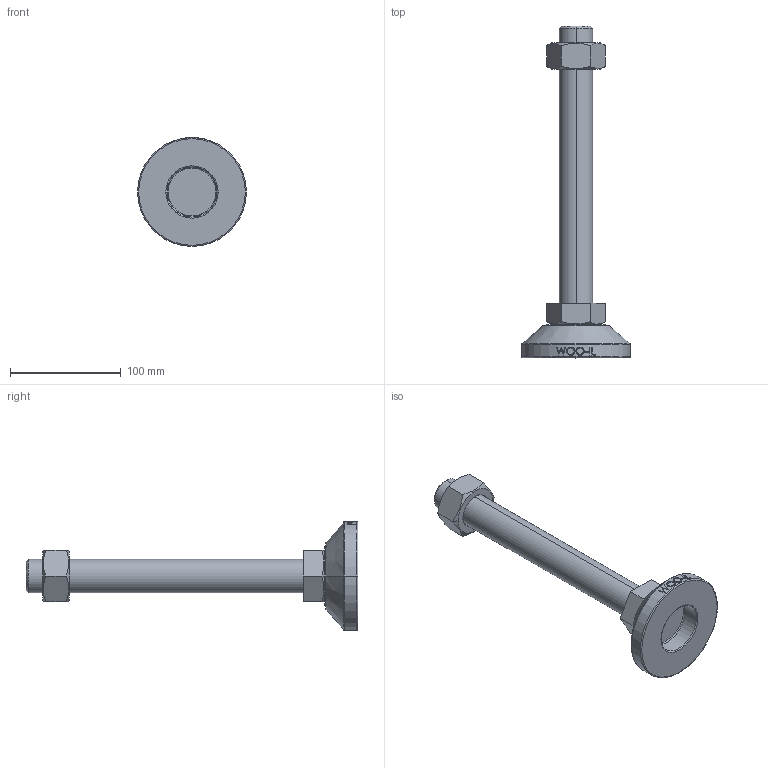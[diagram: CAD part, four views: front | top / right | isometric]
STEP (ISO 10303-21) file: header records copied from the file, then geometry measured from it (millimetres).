
FILE_DESCRIPTION (( 'STEP AP214' ), '1' );
FILE_NAME ('MF98-M30-250.step', '2021-02-03T08:24:11', ( '' ), ( '' ), 'SwSTEP 2.0', 'SolidWorks 2019', '' );
FILE_SCHEMA (( 'AUTOMOTIVE_DESIGN' ));
Length unit declared in the file: millimetre
Products named in the file (2): MF98-M30-250
Bounding box: 98 x 299 x 98 mm (x, y, z)
Volume: 390015.5 mm3; surface area: 60647.1 mm2
Topology: 3 solids, 3 shells, 106 faces, 243 edges, 154 vertices
Faces by surface type: plane 48, cylinder 18, bspline 16, cone 14, torus 10
Entity records: 4554 total; most frequent: CARTESIAN_POINT 2211, ORIENTED_EDGE 486, DIRECTION 439, EDGE_CURVE 243, AXIS2_PLACEMENT_3D 170, VERTEX_POINT 154, EDGE_LOOP 119, FACE_OUTER_BOUND 106
